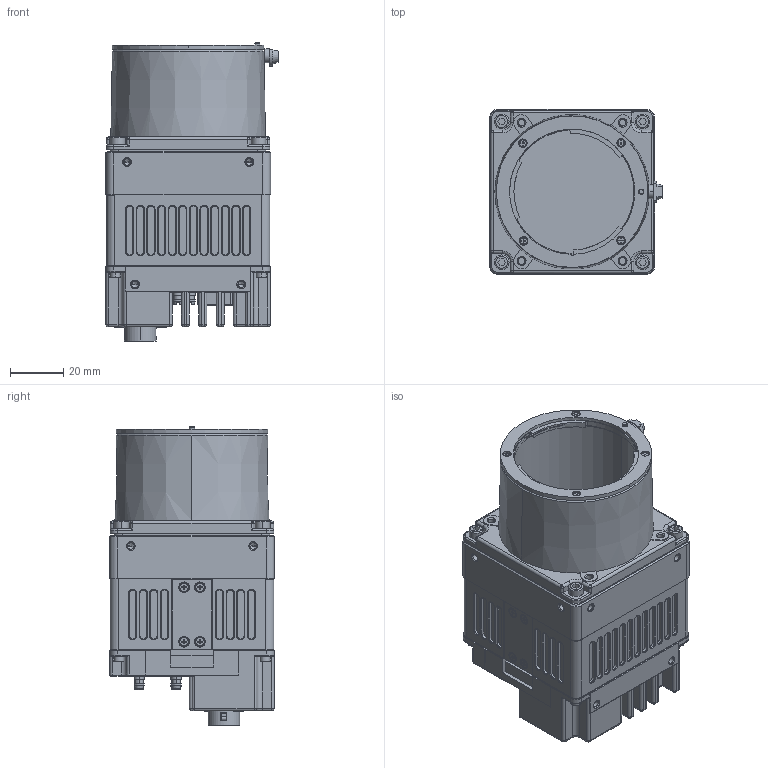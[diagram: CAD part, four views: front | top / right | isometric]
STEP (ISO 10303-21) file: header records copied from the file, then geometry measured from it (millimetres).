
FILE_DESCRIPTION((''),'2;1');
FILE_NAME('SW-4000TL-PMCL-F_MOCK','2026-04-27T12:00:17',('aso'),(''),'CREO PARAMETRIC BY PTC INC, 2025323','CREO PARAMETRIC BY PTC INC, 2025323','');
FILE_SCHEMA(('AUTOMOTIVE_DESIGN { 1 0 10303 214 1 1 1 1 }'));
Products named in the file (1): SW-4000TL-PMCL-F_MOCK
Bounding box: 64.9 x 62 x 112.1 mm (x, y, z)
Volume: 193688.9 mm3; surface area: 60473.9 mm2
Topology: 5 solids, 17 shells, 2896 faces, 7943 edges, 5025 vertices
Faces by surface type: plane 1630, cylinder 864, cone 263, sphere 63, torus 60, bspline 16
Entity records: 124394 total; most frequent: CARTESIAN_POINT 18371, ORIENTED_EDGE 15584, DIRECTION 15445, EDGE_CURVE 7824, PRESENTATION_STYLE_ASSIGNMENT 7120, STYLED_ITEM 5883, AXIS2_PLACEMENT_3D 5272, VERTEX_POINT 5025
